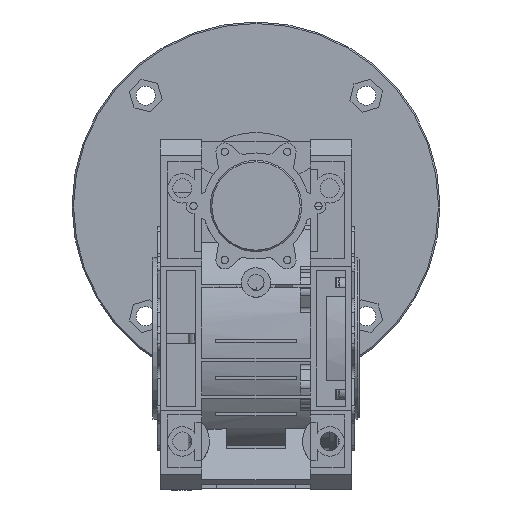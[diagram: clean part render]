
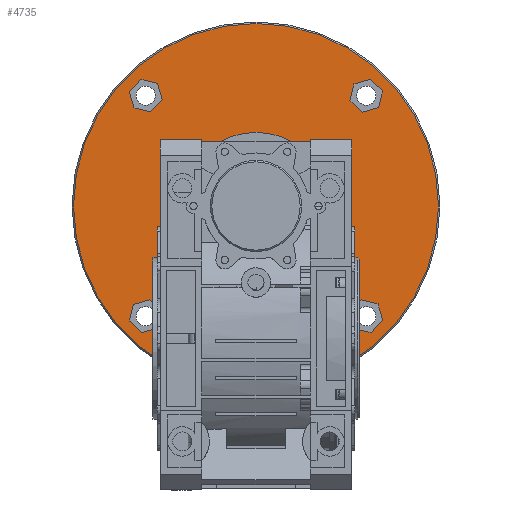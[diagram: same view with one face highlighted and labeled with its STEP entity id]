
A CAD part, front view. The second image highlights one B-rep face of the part: STEP entity #4735.
In plain terms, the highlighted planar face has unit normal (0, -1, 0).
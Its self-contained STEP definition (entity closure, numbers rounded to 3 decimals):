
#3080=CARTESIAN_POINT('',(82.907,108.5,23.418));
#3081=VERTEX_POINT('',#3080);
#3088=CARTESIAN_POINT('',(71.688,108.5,26.148));
#3089=VERTEX_POINT('',#3088);
#3090=CARTESIAN_POINT('',(71.688,108.5,26.148));
#3091=DIRECTION('',(0.972,0.,-0.236));
#3092=VECTOR('',#3091,11.547);
#3093=LINE('',#3090,#3092);
#3094=EDGE_CURVE('',#3089,#3081,#3093,.T.);
#3119=CARTESIAN_POINT('',(63.714,108.5,17.796));
#3120=VERTEX_POINT('',#3119);
#3121=CARTESIAN_POINT('',(63.714,108.5,17.796));
#3122=DIRECTION('',(0.691,0.,0.723));
#3123=VECTOR('',#3122,11.547);
#3124=LINE('',#3121,#3123);
#3125=EDGE_CURVE('',#3120,#3089,#3124,.T.);
#3150=CARTESIAN_POINT('',(66.96,108.5,6.714));
#3151=VERTEX_POINT('',#3150);
#3152=CARTESIAN_POINT('',(66.96,108.5,6.714));
#3153=DIRECTION('',(-0.281,0.,0.96));
#3154=VECTOR('',#3153,11.547);
#3155=LINE('',#3152,#3154);
#3156=EDGE_CURVE('',#3151,#3120,#3155,.T.);
#3181=CARTESIAN_POINT('',(78.18,108.5,3.985));
#3182=VERTEX_POINT('',#3181);
#3183=CARTESIAN_POINT('',(78.18,108.5,3.985));
#3184=DIRECTION('',(-0.972,0.,0.236));
#3185=VECTOR('',#3184,11.547);
#3186=LINE('',#3183,#3185);
#3187=EDGE_CURVE('',#3182,#3151,#3186,.T.);
#3212=CARTESIAN_POINT('',(86.153,108.5,12.337));
#3213=VERTEX_POINT('',#3212);
#3214=CARTESIAN_POINT('',(86.153,108.5,12.337));
#3215=DIRECTION('',(-0.691,0.,-0.723));
#3216=VECTOR('',#3215,11.547);
#3217=LINE('',#3214,#3216);
#3218=EDGE_CURVE('',#3213,#3182,#3217,.T.);
#3241=CARTESIAN_POINT('',(82.907,108.5,23.418));
#3242=DIRECTION('',(0.281,0.0,-0.96));
#3243=VECTOR('',#3242,11.547);
#3244=LINE('',#3241,#3243);
#3245=EDGE_CURVE('',#3081,#3213,#3244,.T.);
#3291=CARTESIAN_POINT('',(-66.582,108.5,7.093));
#3292=VERTEX_POINT('',#3291);
#3299=CARTESIAN_POINT('',(-63.852,108.5,18.312));
#3300=VERTEX_POINT('',#3299);
#3301=CARTESIAN_POINT('',(-63.852,108.5,18.312));
#3302=DIRECTION('',(-0.236,0.0,-0.972));
#3303=VECTOR('',#3302,11.547);
#3304=LINE('',#3301,#3303);
#3305=EDGE_CURVE('',#3300,#3292,#3304,.T.);
#3330=CARTESIAN_POINT('',(-72.204,108.5,26.286));
#3331=VERTEX_POINT('',#3330);
#3332=CARTESIAN_POINT('',(-72.204,108.5,26.286));
#3333=DIRECTION('',(0.723,0.,-0.691));
#3334=VECTOR('',#3333,11.547);
#3335=LINE('',#3332,#3334);
#3336=EDGE_CURVE('',#3331,#3300,#3335,.T.);
#3361=CARTESIAN_POINT('',(-83.286,108.5,23.04));
#3362=VERTEX_POINT('',#3361);
#3363=CARTESIAN_POINT('',(-83.286,108.5,23.04));
#3364=DIRECTION('',(0.96,0.,0.281));
#3365=VECTOR('',#3364,11.547);
#3366=LINE('',#3363,#3365);
#3367=EDGE_CURVE('',#3362,#3331,#3366,.T.);
#3392=CARTESIAN_POINT('',(-86.015,108.5,11.82));
#3393=VERTEX_POINT('',#3392);
#3394=CARTESIAN_POINT('',(-86.015,108.5,11.82));
#3395=DIRECTION('',(0.236,0.0,0.972));
#3396=VECTOR('',#3395,11.547);
#3397=LINE('',#3394,#3396);
#3398=EDGE_CURVE('',#3393,#3362,#3397,.T.);
#3423=CARTESIAN_POINT('',(-77.663,108.5,3.847));
#3424=VERTEX_POINT('',#3423);
#3425=CARTESIAN_POINT('',(-77.663,108.5,3.847));
#3426=DIRECTION('',(-0.723,0.,0.691));
#3427=VECTOR('',#3426,11.547);
#3428=LINE('',#3425,#3427);
#3429=EDGE_CURVE('',#3424,#3393,#3428,.T.);
#3452=CARTESIAN_POINT('',(-66.582,108.5,7.093));
#3453=DIRECTION('',(-0.96,0.,-0.281));
#3454=VECTOR('',#3453,11.547);
#3455=LINE('',#3452,#3454);
#3456=EDGE_CURVE('',#3292,#3424,#3455,.T.);
#3502=CARTESIAN_POINT('',(-82.907,108.5,156.582));
#3503=VERTEX_POINT('',#3502);
#3510=CARTESIAN_POINT('',(-71.688,108.5,153.852));
#3511=VERTEX_POINT('',#3510);
#3512=CARTESIAN_POINT('',(-71.688,108.5,153.852));
#3513=DIRECTION('',(-0.972,0.,0.236));
#3514=VECTOR('',#3513,11.547);
#3515=LINE('',#3512,#3514);
#3516=EDGE_CURVE('',#3511,#3503,#3515,.T.);
#3541=CARTESIAN_POINT('',(-63.714,108.5,162.204));
#3542=VERTEX_POINT('',#3541);
#3543=CARTESIAN_POINT('',(-63.714,108.5,162.204));
#3544=DIRECTION('',(-0.691,0.,-0.723));
#3545=VECTOR('',#3544,11.547);
#3546=LINE('',#3543,#3545);
#3547=EDGE_CURVE('',#3542,#3511,#3546,.T.);
#3572=CARTESIAN_POINT('',(-66.96,108.5,173.286));
#3573=VERTEX_POINT('',#3572);
#3574=CARTESIAN_POINT('',(-66.96,108.5,173.286));
#3575=DIRECTION('',(0.281,0.0,-0.96));
#3576=VECTOR('',#3575,11.547);
#3577=LINE('',#3574,#3576);
#3578=EDGE_CURVE('',#3573,#3542,#3577,.T.);
#3603=CARTESIAN_POINT('',(-78.18,108.5,176.015));
#3604=VERTEX_POINT('',#3603);
#3605=CARTESIAN_POINT('',(-78.18,108.5,176.015));
#3606=DIRECTION('',(0.972,0.,-0.236));
#3607=VECTOR('',#3606,11.547);
#3608=LINE('',#3605,#3607);
#3609=EDGE_CURVE('',#3604,#3573,#3608,.T.);
#3634=CARTESIAN_POINT('',(-86.153,108.5,167.663));
#3635=VERTEX_POINT('',#3634);
#3636=CARTESIAN_POINT('',(-86.153,108.5,167.663));
#3637=DIRECTION('',(0.691,0.,0.723));
#3638=VECTOR('',#3637,11.547);
#3639=LINE('',#3636,#3638);
#3640=EDGE_CURVE('',#3635,#3604,#3639,.T.);
#3663=CARTESIAN_POINT('',(-82.907,108.5,156.582));
#3664=DIRECTION('',(-0.281,0.0,0.96));
#3665=VECTOR('',#3664,11.547);
#3666=LINE('',#3663,#3665);
#3667=EDGE_CURVE('',#3503,#3635,#3666,.T.);
#3882=CARTESIAN_POINT('',(66.582,108.5,172.907));
#3883=VERTEX_POINT('',#3882);
#3890=CARTESIAN_POINT('',(63.852,108.5,161.688));
#3891=VERTEX_POINT('',#3890);
#3892=CARTESIAN_POINT('',(63.852,108.5,161.688));
#3893=DIRECTION('',(0.236,0.0,0.972));
#3894=VECTOR('',#3893,11.547);
#3895=LINE('',#3892,#3894);
#3896=EDGE_CURVE('',#3891,#3883,#3895,.T.);
#3921=CARTESIAN_POINT('',(72.204,108.5,153.714));
#3922=VERTEX_POINT('',#3921);
#3923=CARTESIAN_POINT('',(72.204,108.5,153.714));
#3924=DIRECTION('',(-0.723,0.0,0.691));
#3925=VECTOR('',#3924,11.547);
#3926=LINE('',#3923,#3925);
#3927=EDGE_CURVE('',#3922,#3891,#3926,.T.);
#3952=CARTESIAN_POINT('',(83.286,108.5,156.96));
#3953=VERTEX_POINT('',#3952);
#3954=CARTESIAN_POINT('',(83.286,108.5,156.96));
#3955=DIRECTION('',(-0.96,0.,-0.281));
#3956=VECTOR('',#3955,11.547);
#3957=LINE('',#3954,#3956);
#3958=EDGE_CURVE('',#3953,#3922,#3957,.T.);
#3983=CARTESIAN_POINT('',(86.015,108.5,168.18));
#3984=VERTEX_POINT('',#3983);
#3985=CARTESIAN_POINT('',(86.015,108.5,168.18));
#3986=DIRECTION('',(-0.236,0.0,-0.972));
#3987=VECTOR('',#3986,11.547);
#3988=LINE('',#3985,#3987);
#3989=EDGE_CURVE('',#3984,#3953,#3988,.T.);
#4014=CARTESIAN_POINT('',(77.663,108.5,176.153));
#4015=VERTEX_POINT('',#4014);
#4016=CARTESIAN_POINT('',(77.663,108.5,176.153));
#4017=DIRECTION('',(0.723,0.,-0.691));
#4018=VECTOR('',#4017,11.547);
#4019=LINE('',#4016,#4018);
#4020=EDGE_CURVE('',#4015,#3984,#4019,.T.);
#4043=CARTESIAN_POINT('',(66.582,108.5,172.907));
#4044=DIRECTION('',(0.96,0.,0.281));
#4045=VECTOR('',#4044,11.547);
#4046=LINE('',#4043,#4045);
#4047=EDGE_CURVE('',#3883,#4015,#4046,.T.);
#4669=CARTESIAN_POINT('',(0.,108.5,214.));
#4670=VERTEX_POINT('',#4669);
#4671=CARTESIAN_POINT('',(0.,108.5,90.0));
#4672=DIRECTION('',(0.0,-1.0,0.0));
#4673=DIRECTION('',(0.0,0.0,1.0));
#4674=AXIS2_PLACEMENT_3D('',#4671,#4672,#4673);
#4675=CIRCLE('',#4674,124.);
#4676=EDGE_CURVE('',#4670,#4670,#4675,.T.);
#4684=CARTESIAN_POINT('',(0.,108.5,177.));
#4685=DIRECTION('',(0.0,-1.0,0.0));
#4686=DIRECTION('',(1.0,0.0,0.0));
#4687=AXIS2_PLACEMENT_3D('',#4684,#4685,#4686);
#4688=PLANE('',#4687);
#4689=ORIENTED_EDGE('',*,*,#4676,.T.);
#4690=EDGE_LOOP('',(#4689));
#4691=FACE_OUTER_BOUND('',#4690,.T.);
#4692=ORIENTED_EDGE('',*,*,#3094,.T.);
#4693=ORIENTED_EDGE('',*,*,#3245,.T.);
#4694=ORIENTED_EDGE('',*,*,#3218,.T.);
#4695=ORIENTED_EDGE('',*,*,#3187,.T.);
#4696=ORIENTED_EDGE('',*,*,#3156,.T.);
#4697=ORIENTED_EDGE('',*,*,#3125,.T.);
#4698=EDGE_LOOP('',(#4692,#4693,#4694,#4695,#4696,#4697));
#4699=FACE_BOUND('',#4698,.T.);
#4700=ORIENTED_EDGE('',*,*,#3305,.T.);
#4701=ORIENTED_EDGE('',*,*,#3456,.T.);
#4702=ORIENTED_EDGE('',*,*,#3429,.T.);
#4703=ORIENTED_EDGE('',*,*,#3398,.T.);
#4704=ORIENTED_EDGE('',*,*,#3367,.T.);
#4705=ORIENTED_EDGE('',*,*,#3336,.T.);
#4706=EDGE_LOOP('',(#4700,#4701,#4702,#4703,#4704,#4705));
#4707=FACE_BOUND('',#4706,.T.);
#4708=ORIENTED_EDGE('',*,*,#3516,.T.);
#4709=ORIENTED_EDGE('',*,*,#3667,.T.);
#4710=ORIENTED_EDGE('',*,*,#3640,.T.);
#4711=ORIENTED_EDGE('',*,*,#3609,.T.);
#4712=ORIENTED_EDGE('',*,*,#3578,.T.);
#4713=ORIENTED_EDGE('',*,*,#3547,.T.);
#4714=EDGE_LOOP('',(#4708,#4709,#4710,#4711,#4712,#4713));
#4715=FACE_BOUND('',#4714,.T.);
#4716=ORIENTED_EDGE('',*,*,#3896,.T.);
#4717=ORIENTED_EDGE('',*,*,#4047,.T.);
#4718=ORIENTED_EDGE('',*,*,#4020,.T.);
#4719=ORIENTED_EDGE('',*,*,#3989,.T.);
#4720=ORIENTED_EDGE('',*,*,#3958,.T.);
#4721=ORIENTED_EDGE('',*,*,#3927,.T.);
#4722=EDGE_LOOP('',(#4716,#4717,#4718,#4719,#4720,#4721));
#4723=FACE_BOUND('',#4722,.T.);
#4724=CARTESIAN_POINT('',(0.,108.5,140.0));
#4725=VERTEX_POINT('',#4724);
#4726=CARTESIAN_POINT('',(0.,108.5,90.0));
#4727=DIRECTION('',(0.0,-1.0,0.0));
#4728=DIRECTION('',(0.0,0.0,1.0));
#4729=AXIS2_PLACEMENT_3D('',#4726,#4727,#4728);
#4730=CIRCLE('',#4729,50.0);
#4731=EDGE_CURVE('',#4725,#4725,#4730,.T.);
#4732=ORIENTED_EDGE('',*,*,#4731,.F.);
#4733=EDGE_LOOP('',(#4732));
#4734=FACE_BOUND('',#4733,.T.);
#4735=ADVANCED_FACE('',(#4691,#4699,#4707,#4715,#4723,#4734),#4688,.T.);
